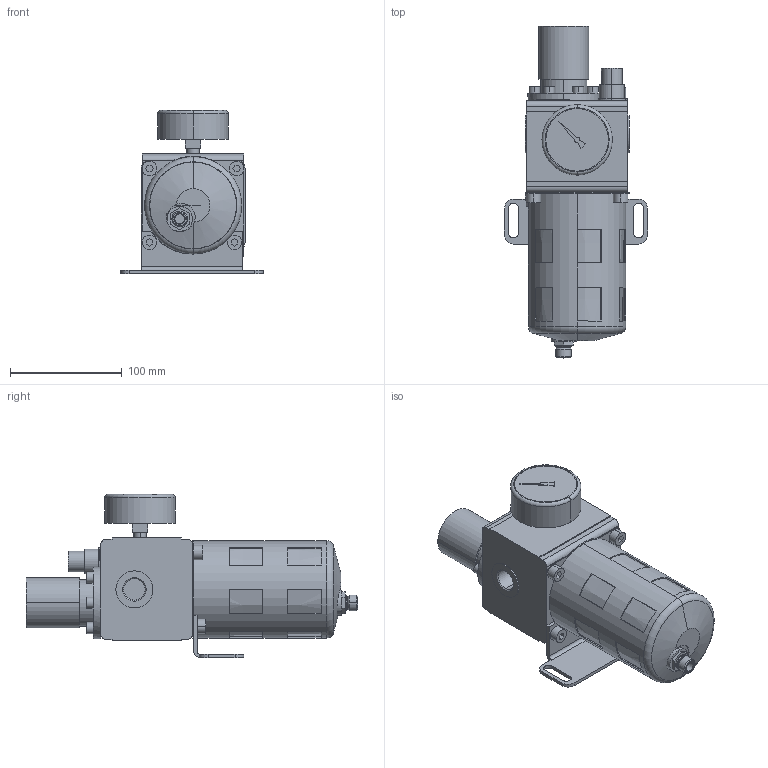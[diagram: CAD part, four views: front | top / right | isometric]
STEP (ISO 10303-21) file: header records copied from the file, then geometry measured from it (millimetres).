
FILE_DESCRIPTION((''),'2;1');
FILE_NAME('0821300060_ASM','2023-10-09T11:39:21',('GND7HC'),(''),'CREO PARAMETRIC BY PTC INC, 2020044','CREO PARAMETRIC BY PTC INC, 2020044','');
FILE_SCHEMA(('CONFIG_CONTROL_DESIGN','SHAPE_APPEARANCE_LAYERS_GROUPS'));
Length unit declared in the file: millimetre
Products named in the file (8): 0821300060-A; 1820510006; 0821300060-E; 1820507003; 0821300060-D; 0821300060-C; 0821300060-F; 0821300060_ASM
Assembly tree (10 placements, depth 2):
  0821300060_ASM
    0821300060-A
    1820510006
    0821300060-E
    1820507003
    0821300060-D
    0821300060-C
    0821300060-F  x4
Bounding box: 128 x 297 x 146 mm (x, y, z)
Volume: 1145810.4 mm3; surface area: 285735.4 mm2
Topology: 10 solids, 11 shells, 518 faces, 1254 edges, 808 vertices
Faces by surface type: plane 284, cylinder 163, cone 56, torus 13, sphere 2
Entity records: 21648 total; most frequent: CARTESIAN_POINT 3502, DIRECTION 2519, ORIENTED_EDGE 2296, PRESENTATION_STYLE_ASSIGNMENT 1341, EDGE_CURVE 1148, STYLED_ITEM 1132, CURVE_STYLE 999, AXIS2_PLACEMENT_3D 925
